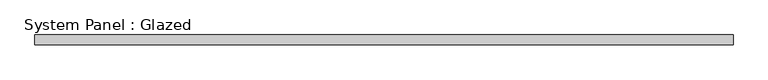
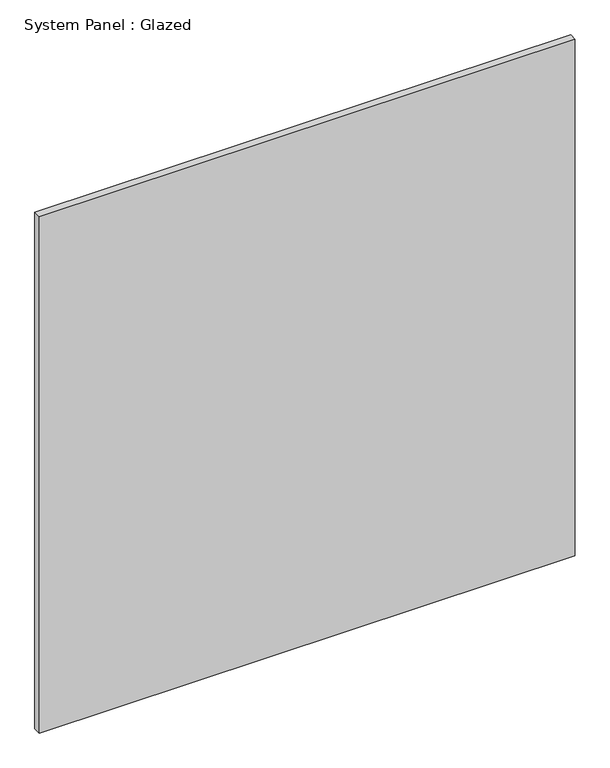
"""IFC4 building model written with IfcOpenShell, lengths in millimetres: plate geometry, System Panel : Glazed."""

from ifc_helpers import new_model, si_unit, origin, origin_with_axes, place, context, project, spatial, polyline, outline, extrude, source, transform, mapped, element, save


def system_panel_glazed_8331d6f5(model_context):
    return source(origin(), model_context, "Body", "SweptSolid", [
        extrude(outline(polyline([(882.65, 19.05), (-882.65, 19.05), (-882.65, 44.45), (882.65, 44.45), (882.65, 19.05)])), origin_with_axes(), (0.0, 0.0, 1.0), 1797.05),
    ])


if __name__ == "__main__":
    model = new_model("IFC4")
    model_context = context("Model", 3, world=origin())
    ifc_project = project(units=[si_unit("LENGTHUNIT", "METRE", prefix="MILLI")], contexts=[model_context])
    site = spatial("IfcSite", under=ifc_project)
    building = spatial("IfcBuilding", under=site)
    placement = place(None, origin())
    system_panel_glazed_shape = system_panel_glazed_8331d6f5(model_context)
    element("IfcPlate", 1, ObjectType="System Panel : Glazed", at=placement, inside=building, context=model_context, shape_type="MappedRepresentation", body=[
        mapped(system_panel_glazed_shape, transform((0.0, 0.0, 0.0), x_axis=(1.0, 0.0, 0.0), y_axis=(0.0, 1.0, 0.0), z_axis=(0.0, 0.0, 1.0))),
    ])
    save(model, "model.ifc")
